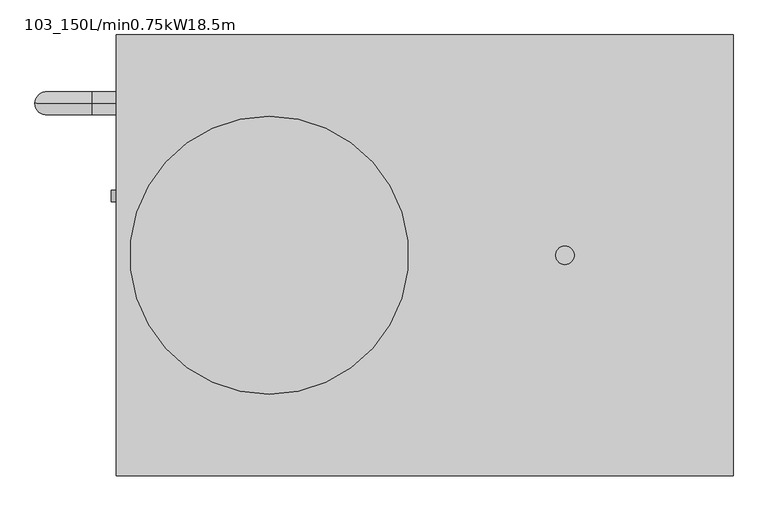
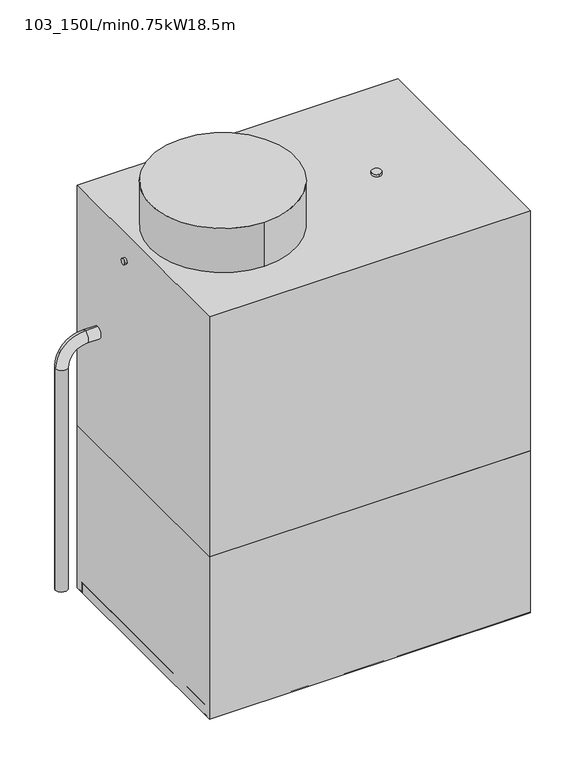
"""IFC4 building model written with IfcOpenShell, lengths in millimetres: unitary equipment geometry, 02030_受水槽一体型ポンプユニット : 103_150L/min0.75kW18.5m."""

import ifcopenshell
import ifcopenshell.guid

model = None  # the IFC model being written
_history = None  # IfcOwnerHistory: only IFC2X3 demands one
_inside = {}  # id of a spatial element -> (the spatial element, [elements in it])
_under = {}  # id of a project, library or spatial element -> (it, [spatial elements below it])
_declared = {}  # id of a project -> (the project, [libraries it declares])
_typed = {}  # id of a type object -> (the type object, [elements of that type])
_made_of = {}  # id of a material, layer set ... -> (it, [elements and type objects made of it])


def new_model(schema):
    """Start an empty IFC model of exactly this schema.

    Asked for "IFC4X3", IfcOpenShell would pick the latest addendum, in which some entities
    have other attributes; the version numbers below select the first issue.
    IFC2X3 requires an IfcOwnerHistory on every rooted entity: one is made here for all.
    """
    global model, _history
    if schema == "IFC4X3":
        model = ifcopenshell.file(schema_version=(4, 3, 0, 0))
    else:
        model = ifcopenshell.file(schema=schema)
    _inside.clear()
    _under.clear()
    _declared.clear()
    _typed.clear()
    _made_of.clear()
    _history = None
    if model.schema == "IFC2X3":
        org = make("IfcOrganization", Name="unknown")
        user = make(
            "IfcPersonAndOrganization",
            ThePerson=make("IfcPerson", FamilyName="unknown"),
            TheOrganization=org,
        )
        app = make(
            "IfcApplication",
            ApplicationDeveloper=org,
            Version="unknown",
            ApplicationFullName="unknown",
            ApplicationIdentifier="unknown",
        )
        _history = make(
            "IfcOwnerHistory",
            OwningUser=user,
            OwningApplication=app,
            ChangeAction="ADDED",
            CreationDate=0,
        )
    return model


def make(cls, **values):
    """One entity of the class cls with the attributes given. An attribute that is None is left unset."""
    return model.create_entity(
        cls, **{name: value for name, value in values.items() if value is not None}
    )


def rooted(cls, **values):
    """An entity with a GlobalId (a new one), such as an element, a storey or a relation."""
    return make(cls, GlobalId=ifcopenshell.guid.new(), OwnerHistory=_history, **values)


def si_unit(unit_type, name, prefix=None):
    """IfcSIUnit, for example si_unit("LENGTHUNIT", "METRE", prefix="MILLI")."""
    return make("IfcSIUnit", UnitType=unit_type, Prefix=prefix, Name=name)


def assignment(units):
    """IfcUnitAssignment: the units of a project."""
    return None if units is None else make("IfcUnitAssignment", Units=units)


def point(xyz):
    """IfcCartesianPoint."""
    return None if xyz is None else make("IfcCartesianPoint", Coordinates=xyz)


def direction(xyz):
    """IfcDirection."""
    return None if xyz is None else make("IfcDirection", DirectionRatios=xyz)


def frame(location, z_axis=None, x_axis=None):
    """IfcAxis2Placement3D, a coordinate frame: its origin and axes. An axis left out is left unset."""
    return make(
        "IfcAxis2Placement3D",
        Location=point(location),
        Axis=direction(z_axis),
        RefDirection=direction(x_axis),
    )


def frame_2d(location, x_axis=None):
    """IfcAxis2Placement2D, a coordinate frame in the plane: its origin and x axis."""
    return make(
        "IfcAxis2Placement2D", Location=point(location), RefDirection=direction(x_axis)
    )


def origin():
    """The frame at (0, 0, 0) with its axes left unset."""
    return frame((0.0, 0.0, 0.0))


def origin_with_axes():
    """The frame at (0, 0, 0) with the z axis (0, 0, 1) and the x axis (1, 0, 0) written out."""
    return frame((0.0, 0.0, 0.0), z_axis=(0.0, 0.0, 1.0), x_axis=(1.0, 0.0, 0.0))


def place(relative_to, where):
    """IfcLocalPlacement: puts the frame where relative to a parent placement (None: the world)."""
    return make(
        "IfcLocalPlacement", PlacementRelTo=relative_to, RelativePlacement=where
    )


def context(
    kind, dimensions, precision=None, world=None, true_north=None, identifier=None
):
    """IfcGeometricRepresentationContext, for example the 3D "Model" context."""
    return make(
        "IfcGeometricRepresentationContext",
        ContextIdentifier=identifier,
        ContextType=kind,
        CoordinateSpaceDimension=dimensions,
        Precision=precision,
        WorldCoordinateSystem=world,
        TrueNorth=true_north,
    )


def project(units=None, contexts=None):
    """IfcProject with its units and contexts."""
    return rooted(
        "IfcProject",
        Name="project",
        RepresentationContexts=contexts,
        UnitsInContext=assignment(units),
    )


def spatial(cls, under=None, at=None, **own):
    """A site, building, storey or space (cls), placed at a placement, below another one or the project."""
    s = rooted(cls, ObjectPlacement=at, **own)
    if under is not None:
        _under.setdefault(under.id(), (under, []))[1].append(s)
    return s


def polyline(points):
    """IfcPolyline through the points."""
    return make("IfcPolyline", Points=[point(p) for p in points])


def circle_curve(where, radius):
    """IfcCircle in the frame where."""
    return make("IfcCircle", Position=where, Radius=radius)


def ellipse_curve(where, semi_axis1, semi_axis2):
    """IfcEllipse in the frame where."""
    return make(
        "IfcEllipse", Position=where, SemiAxis1=semi_axis1, SemiAxis2=semi_axis2
    )


def trimmed(basis, trim1, trim2, sense, master):
    """IfcTrimmedCurve: the piece of a basis curve between two trims."""
    return make(
        "IfcTrimmedCurve",
        BasisCurve=basis,
        Trim1=trim1,
        Trim2=trim2,
        SenseAgreement=sense,
        MasterRepresentation=master,
    )


def segment(curve, same_sense, transition):
    """IfcCompositeCurveSegment."""
    return make(
        "IfcCompositeCurveSegment",
        Transition=transition,
        SameSense=same_sense,
        ParentCurve=curve,
    )


def composite_curve(segments, self_intersect=None):
    """IfcCompositeCurve: segments joined end to end."""
    return make("IfcCompositeCurve", Segments=segments, SelfIntersect=self_intersect)


def outline(outer, holes=None, kind="AREA"):
    """IfcArbitraryClosedProfileDef: a profile drawn as a closed curve; with holes, ...WithVoids."""
    if holes is None:
        return make("IfcArbitraryClosedProfileDef", ProfileType=kind, OuterCurve=outer)
    return make(
        "IfcArbitraryProfileDefWithVoids",
        ProfileType=kind,
        OuterCurve=outer,
        InnerCurves=holes,
    )


def extrude(swept, where, along, depth):
    """IfcExtrudedAreaSolid: the profile swept, set in the frame where, extruded along a direction by depth."""
    return make(
        "IfcExtrudedAreaSolid",
        SweptArea=swept,
        Position=where,
        ExtrudedDirection=direction(along),
        Depth=depth,
    )


def shape(context_of_items, identifier, shape_type, items):
    """IfcShapeRepresentation: the items that make up one representation, for example the "Body"."""
    return make(
        "IfcShapeRepresentation",
        ContextOfItems=context_of_items,
        RepresentationIdentifier=identifier,
        RepresentationType=shape_type,
        Items=items,
    )


def source(mapping_origin, context_of_items, identifier, shape_type, items):
    """IfcRepresentationMap: a shape defined once, which mapped items show again and again."""
    return make(
        "IfcRepresentationMap",
        MappingOrigin=mapping_origin,
        MappedRepresentation=shape(context_of_items, identifier, shape_type, items),
    )


def transform(
    local_origin,
    x_axis=None,
    y_axis=None,
    z_axis=None,
    scale=None,
    scale2=None,
    scale3=None,
    uniform=True,
):
    """IfcCartesianTransformationOperator3D, or its non-uniform kind. x_axis, y_axis, z_axis: its Axis1, 2, 3."""
    if uniform:
        return make(
            "IfcCartesianTransformationOperator3D",
            Axis1=direction(x_axis),
            Axis2=direction(y_axis),
            LocalOrigin=point(local_origin),
            Scale=scale,
            Axis3=direction(z_axis),
        )
    return make(
        "IfcCartesianTransformationOperator3DnonUniform",
        Axis1=direction(x_axis),
        Axis2=direction(y_axis),
        LocalOrigin=point(local_origin),
        Scale=scale,
        Axis3=direction(z_axis),
        Scale2=scale2,
        Scale3=scale3,
    )


def mapped(mapping_source, mapping_target):
    """IfcMappedItem: shows the shape of a source again, moved by a transform."""
    return make(
        "IfcMappedItem", MappingSource=mapping_source, MappingTarget=mapping_target
    )


def made_of(thing, what):
    """Note that an element or type object is made of a material, layer set ...; save() writes the relation."""
    if what is not None:
        _made_of.setdefault(what.id(), (what, []))[1].append(thing)
    return thing


def element(
    cls,
    number,
    at=None,
    inside=None,
    cuts=None,
    type_object=None,
    material=None,
    context=None,
    identifier="Body",
    shape_type=None,
    held_by="IfcProductDefinitionShape",
    body=None,
    shapes=None,
    **own,
):
    """One element of the class cls, such as IfcWall. Its Tag is "e" and its number.

    at: its placement. inside: the storey or other place that contains it. cuts: it is an
    opening in that element (IfcRelVoidsElement). A single representation is given by context,
    identifier, shape_type and body (its items); several are given by shapes. held_by: the class
    of the entity that holds the representations. save() writes the other relations.
    """
    e = rooted(cls, Tag="e%d" % number, ObjectPlacement=at, **own)
    if body is not None:
        shapes = [shape(context, identifier, shape_type, body)]
    if shapes is not None:
        e.Representation = make(held_by, Representations=shapes)
    if inside is not None:
        _inside.setdefault(inside.id(), (inside, []))[1].append(e)
    if cuts is not None:
        rooted(
            "IfcRelVoidsElement", RelatingBuildingElement=cuts, RelatedOpeningElement=e
        )
    if type_object is not None:
        _typed.setdefault(type_object.id(), (type_object, []))[1].append(e)
    return made_of(e, material)


def aggregate(whole, parts):
    """IfcRelAggregates: a whole, such as a stair, and the parts it consists of."""
    return rooted("IfcRelAggregates", RelatingObject=whole, RelatedObjects=parts)


def save(model, path):
    """Write the relations noted so far, then the file.

    IfcRelAggregates (storeys below a building ...), IfcRelContainedInSpatialStructure (elements
    in a storey), IfcRelDefinesByType, IfcRelAssociatesMaterial and IfcRelDeclares: one each for
    every whole, place, type object, material and project.
    """
    for whole, parts in _under.values():
        aggregate(whole, parts)
    for where, things in _inside.values():
        rooted(
            "IfcRelContainedInSpatialStructure",
            RelatedElements=things,
            RelatingStructure=where,
        )
    for kind, things in _typed.values():
        rooted("IfcRelDefinesByType", RelatedObjects=things, RelatingType=kind)
    for what, things in _made_of.values():
        rooted("IfcRelAssociatesMaterial", RelatedObjects=things, RelatingMaterial=what)
    for by, libraries in _declared.values():
        rooted("IfcRelDeclares", RelatingContext=by, RelatedDefinitions=libraries)
    model.write(path)


def plane_surface(at):
    """IfcPlane: the flat surface through the origin of the frame at, square to its z axis."""
    return make("IfcPlane", Position=at)


def cylinder_surface(at, radius):
    """IfcCylindricalSurface: all points at the distance radius from the z axis of the frame at."""
    return make("IfcCylindricalSurface", Position=at, Radius=radius)


def revolved_surface(curve, axis_point, axis_direction):
    """IfcSurfaceOfRevolution: the curve turned about the line through axis_point along axis_direction."""
    return make(
        "IfcSurfaceOfRevolution",
        SweptCurve=make("IfcArbitraryOpenProfileDef", ProfileType="CURVE", Curve=curve),
        AxisPosition=make("IfcAxis1Placement", Location=point(axis_point), Axis=direction(axis_direction)),
    )


def advanced_brep(points, edges, surfaces, faces):
    """IfcAdvancedBrep: a solid bounded by faces that lie on surfaces and meet in shared edges.

    An edge is (start, end): straight between two places in points (the first is 0);
    or (start, end, curve); or (start, end, curve, False) where it runs against its curve.
    A face is (place in surfaces, loops), or (place, loops, False) where it looks against
    its surface's normal. A loop lists edges by number (the first is 1), with a minus sign
    where the edge is run from its end to its start. The first loop is the outer one.
    """
    corners = [point(p) for p in points]
    vertices = [make("IfcVertexPoint", VertexGeometry=c) for c in corners]
    made = []
    for start, end, *more in edges:
        made.append(
            make(
                "IfcEdgeCurve",
                EdgeStart=vertices[start],
                EdgeEnd=vertices[end],
                EdgeGeometry=more[0] if more else make("IfcPolyline", Points=[corners[start], corners[end]]),
                SameSense=more[1] if len(more) > 1 else True,
            )
        )
    hull = []
    for where, loops, *sense in faces:
        bounds = []
        for j, loop in enumerate(loops):
            ring = [make("IfcOrientedEdge", EdgeElement=made[abs(k) - 1], Orientation=k > 0) for k in loop]
            bounds.append(
                make(
                    "IfcFaceOuterBound" if j == 0 else "IfcFaceBound",
                    Bound=make("IfcEdgeLoop", EdgeList=ring),
                    Orientation=True,
                )
            )
        hull.append(make("IfcAdvancedFace", Bounds=bounds, FaceSurface=surfaces[where], SameSense=sense[0] if sense else True))
    return make("IfcAdvancedBrep", Outer=make("IfcClosedShell", CfsFaces=hull))


def unitary_equipment_103_150l_min0_75kw18_5m_9d0cca60(model_context):
    return source(origin(), model_context, "Body", "SolidModel", [
        advanced_brep(
        [(-665.0, 327.5, 1183.0), (-665.0, 327.5, 1233.0), (-716.2627402, 327.5, 1183.0), (-716.2627402, 327.5, 1233.0), (-790.0, 327.5, 140.0), (-840.0, 327.5, 140.0), (-840.0, 327.5, 1109.2627402), (-790.0, 327.5, 1109.2627402)],
        [
            (0, 1, circle_curve(frame((-665.0, 327.5, 1208.0), z_axis=(1.0, 0.0, 0.0), x_axis=(0.0, 0.0, 1.0)), 25.0)),
            (1, 0, circle_curve(frame((-665.0, 327.5, 1208.0), z_axis=(1.0, 0.0, 0.0), x_axis=(0.0, 0.0, 1.0)), 25.0)),
            (0, 2),
            (2, 3, circle_curve(frame((-716.2627402, 327.5, 1208.0), z_axis=(1.0, 0.0, 0.0), x_axis=(0.0, 0.0, 1.0)), 25.0)),
            (3, 1),
            (3, 2, circle_curve(frame((-716.2627402, 327.5, 1208.0), z_axis=(1.0, 0.0, 0.0), x_axis=(0.0, 0.0, 1.0)), 25.0)),
            (4, 5, circle_curve(frame((-815.0, 327.5, 140.0), z_axis=(0.0, 0.0, -1.0), x_axis=(-1.0, 0.0, 0.0)), 25.0)),
            (5, 4, circle_curve(frame((-815.0, 327.5, 140.0), z_axis=(0.0, 0.0, -1.0), x_axis=(-1.0, 0.0, 0.0)), 25.0)),
            (6, 7, circle_curve(frame((-815.0, 327.5, 1109.2627402), z_axis=(0.0, 0.0, -1.0), x_axis=(-1.0, 0.0, 0.0)), 25.0)),
            (7, 4),
            (5, 6),
            (7, 6, circle_curve(frame((-815.0, 327.5, 1109.2627402), z_axis=(0.0, 0.0, -1.0), x_axis=(-1.0, 0.0, 0.0)), 25.0)),
            (6, 3, circle_curve(frame((-716.2627402, 327.5, 1109.2627402), z_axis=(0.0, 1.0, 0.0), x_axis=(0.0, 0.0, 1.0)), 123.7372598)),
            (2, 7, circle_curve(frame((-716.2627402, 327.5, 1109.2627402), z_axis=(0.0, -1.0, 0.0), x_axis=(0.0, 0.0, 1.0)), 73.7372598)),
        ],
        [
            plane_surface(frame((-665.0, 327.5, 1208.0), z_axis=(1.0, 0.0, 0.0), x_axis=(0.0, 1.0, 0.0))),
            cylinder_surface(frame((-665.0, 327.5, 1208.0), z_axis=(1.0, 0.0, 0.0), x_axis=(0.0, 0.0, 1.0)), 25.0),
            plane_surface(frame((-815.0, 327.5, 140.0), z_axis=(0.0, 0.0, -1.0), x_axis=(0.0, 1.0, 0.0))),
            cylinder_surface(frame((-815.0, 327.5, 1109.2627402), z_axis=(0.0, 0.0, 1.0), x_axis=(-1.0, 0.0, 0.0)), 25.0),
            revolved_surface(trimmed(ellipse_curve(frame((-716.2627402, 327.5, 1208.0), z_axis=(1.0, 0.0, 0.0), x_axis=(0.0, 0.0, 1.0)), 25.0, 25.0), [point((-716.2627402, 327.5, 1183.0))], [point((-716.2627402, 327.5, 1233.0))], True, "CARTESIAN"), (-716.2627402, 327.5, 1109.2627402), (0.0, -1.0, 0.0)),
            revolved_surface(trimmed(ellipse_curve(frame((-716.2627402, 327.5, 1208.0), z_axis=(1.0, 0.0, 0.0), x_axis=(0.0, 0.0, 1.0)), 25.0, 25.0), [point((-716.2627402, 327.5, 1233.0))], [point((-716.2627402, 327.5, 1183.0))], True, "CARTESIAN"), (-716.2627402, 327.5, 1109.2627402), (0.0, -1.0, 0.0)),
        ],
        [
            (0, [[1, 2]]),
            (1, [[-1, 3, 4, 5]]),
            (1, [[-2, -5, 6, -3]]),
            (2, [[7, 8]]),
            (3, [[9, 10, -8, 11]]),
            (3, [[12, -11, -7, -10]]),
            (4, [[13, -4, 14, -9]]),
            (5, [[-14, -6, -13, -12]]),
        ],
    ),
        extrude(outline(composite_curve([segment(trimmed(circle_curve(frame_2d((127.5, 1642.0)), 12.5), [point((140.0, 1642.0))], [point((115.0, 1642.0))], False, "CARTESIAN"), True, "CONTINUOUS"), segment(trimmed(circle_curve(frame_2d((127.5, 1642.0)), 12.5), [point((115.0, 1642.0))], [point((140.0, 1642.0))], False, "CARTESIAN"), True, "CONTINUOUS")], self_intersect=False)), frame((-675.0, 0.0, 0.0), z_axis=(1.0, 0.0, 0.0), x_axis=(0.0, 1.0, 0.0)), (0.0, 0.0, 1.0), 10.0),
        extrude(outline(composite_curve([segment(trimmed(circle_curve(frame_2d((302.5, 0.0)), 20.0), [point((302.5, -20.0))], [point((302.5, 20.0))], False, "CARTESIAN"), True, "CONTINUOUS"), segment(trimmed(circle_curve(frame_2d((302.5, 0.0)), 20.0), [point((302.5, 20.0))], [point((302.5, -20.0))], False, "CARTESIAN"), True, "CONTINUOUS")], self_intersect=False)), frame((0.0, 0.0, 1762.0), z_axis=(0.0, 0.0, 1.0), x_axis=(1.0, 0.0, 0.0)), (0.0, 0.0, 1.0), 10.0),
        extrude(outline(composite_curve([segment(trimmed(circle_curve(frame_2d((-335.0, 0.0)), 300.0), [point((-335.0, -300.0))], [point((-335.0, 300.0))], False, "CARTESIAN"), True, "CONTINUOUS"), segment(trimmed(circle_curve(frame_2d((-335.0, 0.0)), 300.0), [point((-335.0, 300.0))], [point((-335.0, -300.0))], False, "CARTESIAN"), True, "CONTINUOUS")], self_intersect=False)), frame((0.0, 0.0, 1762.0), z_axis=(0.0, 0.0, 1.0), x_axis=(1.0, 0.0, 0.0)), (0.0, 0.0, 1.0), 193.0),
        extrude(outline(polyline([(665.0, 475.0), (665.0, -475.0), (-665.0, -475.0), (-665.0, 475.0), (665.0, 475.0)])), frame((0.0, 0.0, 710.0), z_axis=(0.0, 0.0, 1.0), x_axis=(1.0, 0.0, 0.0)), (0.0, 0.0, 1.0), 1052.0),
        extrude(outline(polyline([(665.0, 475.0), (665.0, -475.0), (-665.0, -475.0), (-665.0, 475.0), (665.0, 475.0)])), origin_with_axes(), (0.0, 0.0, 1.0), 710.0),
        extrude(outline(polyline([(-440.3847664, 3.2), (-440.3847664, 45.0000013), (440.38478, 45.0000013), (440.38478, 3.2), (475.0, 3.2), (475.0, 0.0), (437.1835946, 0.0), (437.1835946, 41.8000013), (-437.1855476, 41.8000013), (-437.1855476, 0.0), (-475.0, 0.0), (-475.0, 3.2), (-440.3847664, 3.2)])), frame((-665.0, 0.0, 0.0), z_axis=(1.0, 0.0, 0.0), x_axis=(0.0, 1.0, 0.0)), (0.0, 0.0, 1.0), 1330.0),
    ])


if __name__ == "__main__":
    model = new_model("IFC4")
    model_context = context("Model", 3, world=origin())
    ifc_project = project(units=[si_unit("LENGTHUNIT", "METRE", prefix="MILLI")], contexts=[model_context])
    site = spatial("IfcSite", under=ifc_project)
    building = spatial("IfcBuilding", under=site)
    placement = place(None, origin())
    unitary_equipment_103_150l_min0_75kw18_5m_shape = unitary_equipment_103_150l_min0_75kw18_5m_9d0cca60(model_context)
    element("IfcUnitaryEquipment", 1, ObjectType="02030_受水槽一体型ポンプユニット : 103_150L/min0.75kW18.5m", at=placement, inside=building, context=model_context, shape_type="MappedRepresentation", body=[
        mapped(unitary_equipment_103_150l_min0_75kw18_5m_shape, transform((0.0, 0.0, 0.0), x_axis=(1.0, 0.0, 0.0), y_axis=(0.0, 1.0, 0.0), z_axis=(0.0, 0.0, 1.0))),
    ])
    save(model, "model.ifc")
